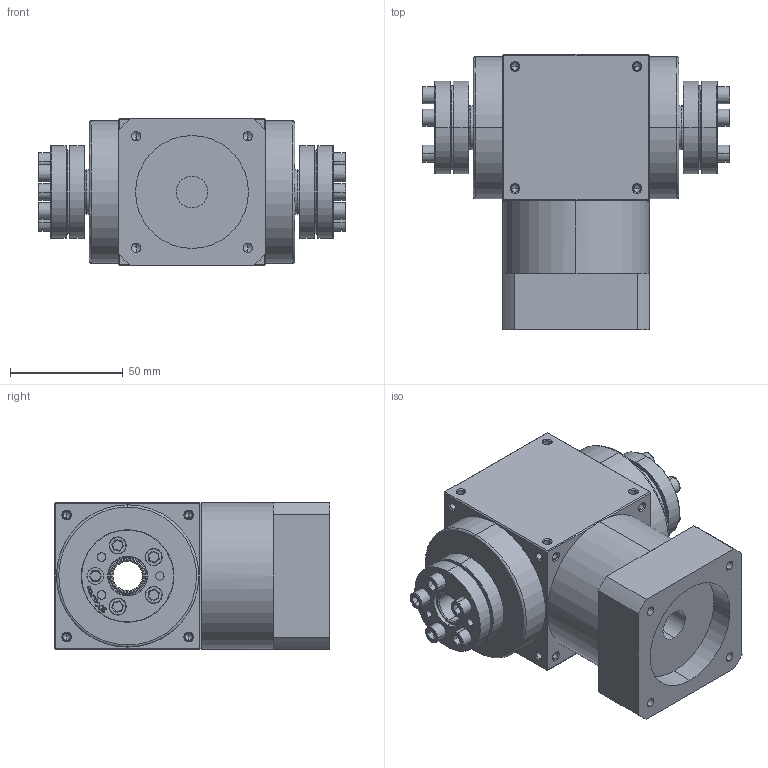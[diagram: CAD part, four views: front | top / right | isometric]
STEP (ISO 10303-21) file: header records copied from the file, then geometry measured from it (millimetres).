
FILE_DESCRIPTION (( 'STEP AP214' ), '1' );
FILE_NAME ('AT065-FC-001--14-50-70-M5.STEP', '2021-04-24T05:49:43', ( 'Microsoft' ), ( 'Microsoft China' ), 'SwSTEP 2.0', 'SolidWorks 2016', '' );
FILE_SCHEMA (( 'AUTOMOTIVE_DESIGN' ));
Length unit declared in the file: millimetre
Products named in the file (3): AT065-FC-001--14-50-70-M5; 83_16x41
Assembly tree (3 placements, depth 2):
  AT065-FC-001--14-50-70-M5
    AT065-FC-001--14-50-70-M5
    83_16x41  x2
Bounding box: 136 x 122 x 65 mm (x, y, z)
Volume: 563512.7 mm3; surface area: 79311 mm2
Topology: 19 solids, 19 shells, 988 faces, 2394 edges, 1430 vertices
Faces by surface type: cylinder 422, plane 250, cone 228, bspline 48, torus 40
Entity records: 19226 total; most frequent: CARTESIAN_POINT 4547, DIRECTION 3072, ORIENTED_EDGE 3056, EDGE_CURVE 1528, AXIS2_PLACEMENT_3D 1183, VERTEX_POINT 928, EDGE_LOOP 734, LINE 706
